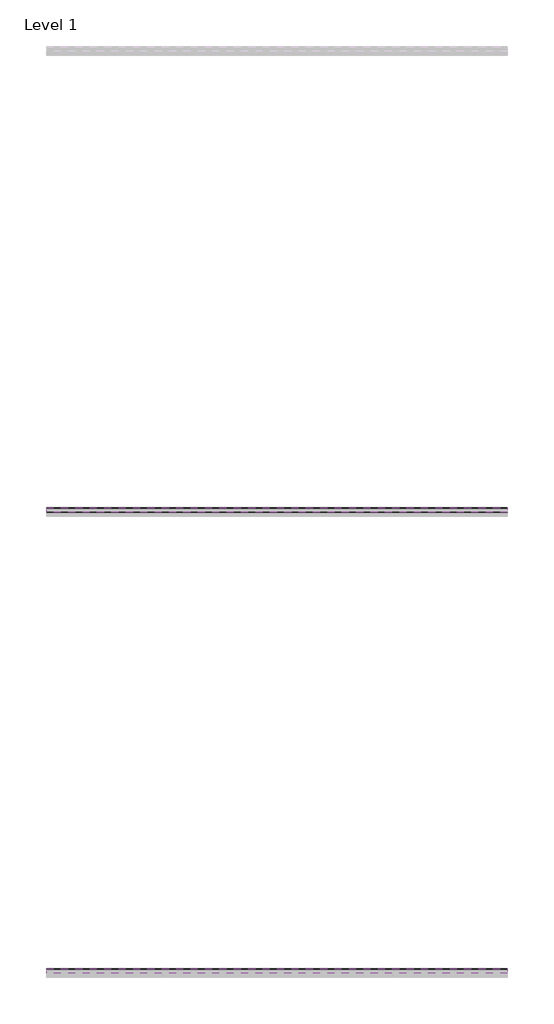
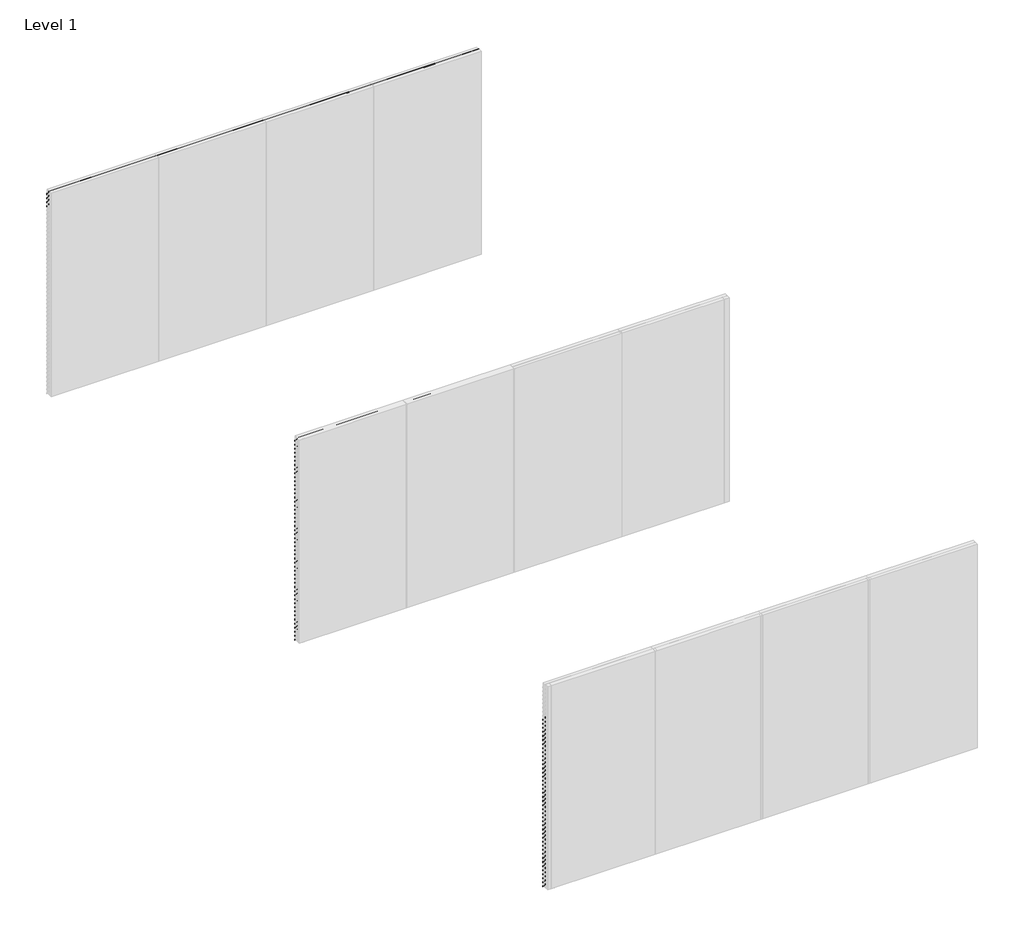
# One storey, part 2 of 3: 96 proxies.
"""IFC4 building model written with IfcOpenShell, lengths in millimetres."""

from ifc_helpers import new_model, si_unit, frame, origin, place, context, project, spatial, polyline, outline, extrude, element, save

model = new_model("IFC4")

# Units and contexts
model_context = context("Model", 3, world=origin())
ifc_project = project(units=[si_unit("LENGTHUNIT", "METRE", prefix="MILLI")], contexts=[model_context])

# Site, building, storey
site = spatial("IfcSite", under=ifc_project)
building = spatial("IfcBuilding", under=site)
storey = spatial("IfcBuildingStorey", under=building, Name="Level 1", Elevation=0.0)

# Proxies
placement = place(None, origin())
element("IfcBuildingElementProxy", 1, Name="Wall Sweeps", at=placement, inside=storey, context=model_context, shape_type="SweptSolid", body=[
    extrude(outline(polyline([(-7995.0, 3000.0), (-7995.0, 2998.0), (-7938.8, 2932.7), (-7938.8, 2916.7), (-7997.0, 2984.3238434), (-7997.0, 3000.0), (-7995.0, 3000.0)])), frame((0.0, 0.0, 0.0), z_axis=(1.0, 0.0, 0.0), x_axis=(0.0, 1.0, 0.0)), (0.0, 0.0, 1.0), 6000.0),
])
element("IfcBuildingElementProxy", 2, Name="Wall Sweeps", at=placement, inside=storey, context=model_context, shape_type="SweptSolid", body=[
    extrude(outline(polyline([(-7995.0, 2940.0), (-7995.0, 2938.0), (-7938.8, 2872.7), (-7938.8, 2856.7), (-7997.0, 2924.3238434), (-7997.0, 2940.0), (-7995.0, 2940.0)])), frame((0.0, 0.0, 0.0), z_axis=(1.0, 0.0, 0.0), x_axis=(0.0, 1.0, 0.0)), (0.0, 0.0, 1.0), 6000.0),
])
element("IfcBuildingElementProxy", 3, Name="Wall Sweeps", at=placement, inside=storey, context=model_context, shape_type="SweptSolid", body=[
    extrude(outline(polyline([(-7995.0, 2880.0), (-7995.0, 2878.0), (-7938.8, 2812.7), (-7938.8, 2796.7), (-7997.0, 2864.3238434), (-7997.0, 2880.0), (-7995.0, 2880.0)])), frame((0.0, 0.0, 0.0), z_axis=(1.0, 0.0, 0.0), x_axis=(0.0, 1.0, 0.0)), (0.0, 0.0, 1.0), 6000.0),
])
element("IfcBuildingElementProxy", 4, Name="Wall Sweeps", at=placement, inside=storey, context=model_context, shape_type="SweptSolid", body=[
    extrude(outline(polyline([(-7995.0, 2820.0), (-7995.0, 2818.0), (-7938.8, 2752.7), (-7938.8, 2736.7), (-7997.0, 2804.3238434), (-7997.0, 2820.0), (-7995.0, 2820.0)])), frame((0.0, 0.0, 0.0), z_axis=(1.0, 0.0, 0.0), x_axis=(0.0, 1.0, 0.0)), (0.0, 0.0, 1.0), 6000.0),
])
element("IfcBuildingElementProxy", 5, Name="Wall Sweeps", at=placement, inside=storey, context=model_context, shape_type="SweptSolid", body=[
    extrude(outline(polyline([(-13995.0, 3000.0), (-13995.0, 2998.0), (-13938.8, 2932.7), (-13938.8, 2916.7), (-13997.0, 2984.3238434), (-13997.0, 3000.0), (-13995.0, 3000.0)])), frame((0.0, 0.0, 0.0), z_axis=(1.0, 0.0, 0.0), x_axis=(0.0, 1.0, 0.0)), (0.0, 0.0, 1.0), 6000.0),
])
element("IfcBuildingElementProxy", 6, Name="Wall Sweeps", at=placement, inside=storey, context=model_context, shape_type="SweptSolid", body=[
    extrude(outline(polyline([(-13995.0, 2940.0), (-13995.0, 2938.0), (-13938.8, 2872.7), (-13938.8, 2856.7), (-13997.0, 2924.3238434), (-13997.0, 2940.0), (-13995.0, 2940.0)])), frame((0.0, 0.0, 0.0), z_axis=(1.0, 0.0, 0.0), x_axis=(0.0, 1.0, 0.0)), (0.0, 0.0, 1.0), 6000.0),
])
element("IfcBuildingElementProxy", 7, Name="Wall Sweeps", at=placement, inside=storey, context=model_context, shape_type="SweptSolid", body=[
    extrude(outline(polyline([(-13995.0, 2880.0), (-13995.0, 2878.0), (-13938.8, 2812.7), (-13938.8, 2796.7), (-13997.0, 2864.3238434), (-13997.0, 2880.0), (-13995.0, 2880.0)])), frame((0.0, 0.0, 0.0), z_axis=(1.0, 0.0, 0.0), x_axis=(0.0, 1.0, 0.0)), (0.0, 0.0, 1.0), 6000.0),
])
element("IfcBuildingElementProxy", 8, Name="Wall Sweeps", at=placement, inside=storey, context=model_context, shape_type="SweptSolid", body=[
    extrude(outline(polyline([(-13995.0, 2820.0), (-13995.0, 2818.0), (-13938.8, 2752.7), (-13938.8, 2736.7), (-13997.0, 2804.3238434), (-13997.0, 2820.0), (-13995.0, 2820.0)])), frame((0.0, 0.0, 0.0), z_axis=(1.0, 0.0, 0.0), x_axis=(0.0, 1.0, 0.0)), (0.0, 0.0, 1.0), 6000.0),
])
element("IfcBuildingElementProxy", 9, Name="Wall Sweeps", at=placement, inside=storey, context=model_context, shape_type="SweptSolid", body=[
    extrude(outline(polyline([(-13995.0, 2760.0), (-13995.0, 2758.0), (-13938.8, 2692.7), (-13938.8, 2676.7), (-13997.0, 2744.3238434), (-13997.0, 2760.0), (-13995.0, 2760.0)])), frame((0.0, 0.0, 0.0), z_axis=(1.0, 0.0, 0.0), x_axis=(0.0, 1.0, 0.0)), (0.0, 0.0, 1.0), 6000.0),
])
element("IfcBuildingElementProxy", 10, Name="Wall Sweeps", at=placement, inside=storey, context=model_context, shape_type="SweptSolid", body=[
    extrude(outline(polyline([(-13995.0, 2700.0), (-13995.0, 2698.0), (-13938.8, 2632.7), (-13938.8, 2616.7), (-13997.0, 2684.3238434), (-13997.0, 2700.0), (-13995.0, 2700.0)])), frame((0.0, 0.0, 0.0), z_axis=(1.0, 0.0, 0.0), x_axis=(0.0, 1.0, 0.0)), (0.0, 0.0, 1.0), 6000.0),
])
element("IfcBuildingElementProxy", 11, Name="Wall Sweeps", at=placement, inside=storey, context=model_context, shape_type="SweptSolid", body=[
    extrude(outline(polyline([(-13995.0, 2640.0), (-13995.0, 2638.0), (-13938.8, 2572.7), (-13938.8, 2556.7), (-13997.0, 2624.3238434), (-13997.0, 2640.0), (-13995.0, 2640.0)])), frame((0.0, 0.0, 0.0), z_axis=(1.0, 0.0, 0.0), x_axis=(0.0, 1.0, 0.0)), (0.0, 0.0, 1.0), 6000.0),
])
element("IfcBuildingElementProxy", 12, Name="Wall Sweeps", at=placement, inside=storey, context=model_context, shape_type="SweptSolid", body=[
    extrude(outline(polyline([(-13995.0, 2580.0), (-13995.0, 2578.0), (-13938.8, 2512.7), (-13938.8, 2496.7), (-13997.0, 2564.3238434), (-13997.0, 2580.0), (-13995.0, 2580.0)])), frame((0.0, 0.0, 0.0), z_axis=(1.0, 0.0, 0.0), x_axis=(0.0, 1.0, 0.0)), (0.0, 0.0, 1.0), 6000.0),
])
element("IfcBuildingElementProxy", 13, Name="Wall Sweeps", at=placement, inside=storey, context=model_context, shape_type="SweptSolid", body=[
    extrude(outline(polyline([(-13995.0, 2520.0), (-13995.0, 2518.0), (-13938.8, 2452.7), (-13938.8, 2436.7), (-13997.0, 2504.3238434), (-13997.0, 2520.0), (-13995.0, 2520.0)])), frame((0.0, 0.0, 0.0), z_axis=(1.0, 0.0, 0.0), x_axis=(0.0, 1.0, 0.0)), (0.0, 0.0, 1.0), 6000.0),
])
element("IfcBuildingElementProxy", 14, Name="Wall Sweeps", at=placement, inside=storey, context=model_context, shape_type="SweptSolid", body=[
    extrude(outline(polyline([(-13995.0, 2460.0), (-13995.0, 2458.0), (-13938.8, 2392.7), (-13938.8, 2376.7), (-13997.0, 2444.3238434), (-13997.0, 2460.0), (-13995.0, 2460.0)])), frame((0.0, 0.0, 0.0), z_axis=(1.0, 0.0, 0.0), x_axis=(0.0, 1.0, 0.0)), (0.0, 0.0, 1.0), 6000.0),
])
element("IfcBuildingElementProxy", 15, Name="Wall Sweeps", at=placement, inside=storey, context=model_context, shape_type="SweptSolid", body=[
    extrude(outline(polyline([(-13995.0, 2400.0), (-13995.0, 2398.0), (-13938.8, 2332.7), (-13938.8, 2316.7), (-13997.0, 2384.3238434), (-13997.0, 2400.0), (-13995.0, 2400.0)])), frame((0.0, 0.0, 0.0), z_axis=(1.0, 0.0, 0.0), x_axis=(0.0, 1.0, 0.0)), (0.0, 0.0, 1.0), 6000.0),
])
element("IfcBuildingElementProxy", 16, Name="Wall Sweeps", at=placement, inside=storey, context=model_context, shape_type="SweptSolid", body=[
    extrude(outline(polyline([(-13995.0, 2340.0), (-13995.0, 2338.0), (-13938.8, 2272.7), (-13938.8, 2256.7), (-13997.0, 2324.3238434), (-13997.0, 2340.0), (-13995.0, 2340.0)])), frame((0.0, 0.0, 0.0), z_axis=(1.0, 0.0, 0.0), x_axis=(0.0, 1.0, 0.0)), (0.0, 0.0, 1.0), 6000.0),
])
element("IfcBuildingElementProxy", 17, Name="Wall Sweeps", at=placement, inside=storey, context=model_context, shape_type="SweptSolid", body=[
    extrude(outline(polyline([(-13995.0, 2280.0), (-13995.0, 2278.0), (-13938.8, 2212.7), (-13938.8, 2196.7), (-13997.0, 2264.3238434), (-13997.0, 2280.0), (-13995.0, 2280.0)])), frame((0.0, 0.0, 0.0), z_axis=(1.0, 0.0, 0.0), x_axis=(0.0, 1.0, 0.0)), (0.0, 0.0, 1.0), 6000.0),
])
element("IfcBuildingElementProxy", 18, Name="Wall Sweeps", at=placement, inside=storey, context=model_context, shape_type="SweptSolid", body=[
    extrude(outline(polyline([(-13995.0, 2220.0), (-13995.0, 2218.0), (-13938.8, 2152.7), (-13938.8, 2136.7), (-13997.0, 2204.3238434), (-13997.0, 2220.0), (-13995.0, 2220.0)])), frame((0.0, 0.0, 0.0), z_axis=(1.0, 0.0, 0.0), x_axis=(0.0, 1.0, 0.0)), (0.0, 0.0, 1.0), 6000.0),
])
element("IfcBuildingElementProxy", 19, Name="Wall Sweeps", at=placement, inside=storey, context=model_context, shape_type="SweptSolid", body=[
    extrude(outline(polyline([(-13995.0, 2160.0), (-13995.0, 2158.0), (-13938.8, 2092.7), (-13938.8, 2076.7), (-13997.0, 2144.3238434), (-13997.0, 2160.0), (-13995.0, 2160.0)])), frame((0.0, 0.0, 0.0), z_axis=(1.0, 0.0, 0.0), x_axis=(0.0, 1.0, 0.0)), (0.0, 0.0, 1.0), 6000.0),
])
element("IfcBuildingElementProxy", 20, Name="Wall Sweeps", at=placement, inside=storey, context=model_context, shape_type="SweptSolid", body=[
    extrude(outline(polyline([(-13995.0, 2100.0), (-13995.0, 2098.0), (-13938.8, 2032.7), (-13938.8, 2016.7), (-13997.0, 2084.3238434), (-13997.0, 2100.0), (-13995.0, 2100.0)])), frame((0.0, 0.0, 0.0), z_axis=(1.0, 0.0, 0.0), x_axis=(0.0, 1.0, 0.0)), (0.0, 0.0, 1.0), 6000.0),
])
element("IfcBuildingElementProxy", 21, Name="Wall Sweeps", at=placement, inside=storey, context=model_context, shape_type="SweptSolid", body=[
    extrude(outline(polyline([(-13995.0, 2040.0), (-13995.0, 2038.0), (-13938.8, 1972.7), (-13938.8, 1956.7), (-13997.0, 2024.3238434), (-13997.0, 2040.0), (-13995.0, 2040.0)])), frame((0.0, 0.0, 0.0), z_axis=(1.0, 0.0, 0.0), x_axis=(0.0, 1.0, 0.0)), (0.0, 0.0, 1.0), 6000.0),
])
element("IfcBuildingElementProxy", 22, Name="Wall Sweeps", at=placement, inside=storey, context=model_context, shape_type="SweptSolid", body=[
    extrude(outline(polyline([(-13995.0, 1980.0), (-13995.0, 1978.0), (-13938.8, 1912.7), (-13938.8, 1896.7), (-13997.0, 1964.3238434), (-13997.0, 1980.0), (-13995.0, 1980.0)])), frame((0.0, 0.0, 0.0), z_axis=(1.0, 0.0, 0.0), x_axis=(0.0, 1.0, 0.0)), (0.0, 0.0, 1.0), 6000.0),
])
element("IfcBuildingElementProxy", 23, Name="Wall Sweeps", at=placement, inside=storey, context=model_context, shape_type="SweptSolid", body=[
    extrude(outline(polyline([(-13995.0, 1920.0), (-13995.0, 1918.0), (-13938.8, 1852.7), (-13938.8, 1836.7), (-13997.0, 1904.3238434), (-13997.0, 1920.0), (-13995.0, 1920.0)])), frame((0.0, 0.0, 0.0), z_axis=(1.0, 0.0, 0.0), x_axis=(0.0, 1.0, 0.0)), (0.0, 0.0, 1.0), 6000.0),
])
element("IfcBuildingElementProxy", 24, Name="Wall Sweeps", at=placement, inside=storey, context=model_context, shape_type="SweptSolid", body=[
    extrude(outline(polyline([(-13995.0, 1860.0), (-13995.0, 1858.0), (-13938.8, 1792.7), (-13938.8, 1776.7), (-13997.0, 1844.3238434), (-13997.0, 1860.0), (-13995.0, 1860.0)])), frame((0.0, 0.0, 0.0), z_axis=(1.0, 0.0, 0.0), x_axis=(0.0, 1.0, 0.0)), (0.0, 0.0, 1.0), 6000.0),
])
element("IfcBuildingElementProxy", 25, Name="Wall Sweeps", at=placement, inside=storey, context=model_context, shape_type="SweptSolid", body=[
    extrude(outline(polyline([(-13995.0, 1800.0), (-13995.0, 1798.0), (-13938.8, 1732.7), (-13938.8, 1716.7), (-13997.0, 1784.3238434), (-13997.0, 1800.0), (-13995.0, 1800.0)])), frame((0.0, 0.0, 0.0), z_axis=(1.0, 0.0, 0.0), x_axis=(0.0, 1.0, 0.0)), (0.0, 0.0, 1.0), 6000.0),
])
element("IfcBuildingElementProxy", 26, Name="Wall Sweeps", at=placement, inside=storey, context=model_context, shape_type="SweptSolid", body=[
    extrude(outline(polyline([(-13995.0, 1740.0), (-13995.0, 1738.0), (-13938.8, 1672.7), (-13938.8, 1656.7), (-13997.0, 1724.3238434), (-13997.0, 1740.0), (-13995.0, 1740.0)])), frame((0.0, 0.0, 0.0), z_axis=(1.0, 0.0, 0.0), x_axis=(0.0, 1.0, 0.0)), (0.0, 0.0, 1.0), 6000.0),
])
element("IfcBuildingElementProxy", 27, Name="Wall Sweeps", at=placement, inside=storey, context=model_context, shape_type="SweptSolid", body=[
    extrude(outline(polyline([(-13995.0, 1680.0), (-13995.0, 1678.0), (-13938.8, 1612.7), (-13938.8, 1596.7), (-13997.0, 1664.3238434), (-13997.0, 1680.0), (-13995.0, 1680.0)])), frame((0.0, 0.0, 0.0), z_axis=(1.0, 0.0, 0.0), x_axis=(0.0, 1.0, 0.0)), (0.0, 0.0, 1.0), 6000.0),
])
element("IfcBuildingElementProxy", 28, Name="Wall Sweeps", at=placement, inside=storey, context=model_context, shape_type="SweptSolid", body=[
    extrude(outline(polyline([(-13995.0, 1620.0), (-13995.0, 1618.0), (-13938.8, 1552.7), (-13938.8, 1536.7), (-13997.0, 1604.3238434), (-13997.0, 1620.0), (-13995.0, 1620.0)])), frame((0.0, 0.0, 0.0), z_axis=(1.0, 0.0, 0.0), x_axis=(0.0, 1.0, 0.0)), (0.0, 0.0, 1.0), 6000.0),
])
element("IfcBuildingElementProxy", 29, Name="Wall Sweeps", at=placement, inside=storey, context=model_context, shape_type="SweptSolid", body=[
    extrude(outline(polyline([(-13995.0, 1560.0), (-13995.0, 1558.0), (-13938.8, 1492.7), (-13938.8, 1476.7), (-13997.0, 1544.3238434), (-13997.0, 1560.0), (-13995.0, 1560.0)])), frame((0.0, 0.0, 0.0), z_axis=(1.0, 0.0, 0.0), x_axis=(0.0, 1.0, 0.0)), (0.0, 0.0, 1.0), 6000.0),
])
element("IfcBuildingElementProxy", 30, Name="Wall Sweeps", at=placement, inside=storey, context=model_context, shape_type="SweptSolid", body=[
    extrude(outline(polyline([(-13995.0, 1500.0), (-13995.0, 1498.0), (-13938.8, 1432.7), (-13938.8, 1416.7), (-13997.0, 1484.3238434), (-13997.0, 1500.0), (-13995.0, 1500.0)])), frame((0.0, 0.0, 0.0), z_axis=(1.0, 0.0, 0.0), x_axis=(0.0, 1.0, 0.0)), (0.0, 0.0, 1.0), 6000.0),
])
element("IfcBuildingElementProxy", 31, Name="Wall Sweeps", at=placement, inside=storey, context=model_context, shape_type="SweptSolid", body=[
    extrude(outline(polyline([(-13995.0, 1440.0), (-13995.0, 1438.0), (-13938.8, 1372.7), (-13938.8, 1356.7), (-13997.0, 1424.3238434), (-13997.0, 1440.0), (-13995.0, 1440.0)])), frame((0.0, 0.0, 0.0), z_axis=(1.0, 0.0, 0.0), x_axis=(0.0, 1.0, 0.0)), (0.0, 0.0, 1.0), 6000.0),
])
element("IfcBuildingElementProxy", 32, Name="Wall Sweeps", at=placement, inside=storey, context=model_context, shape_type="SweptSolid", body=[
    extrude(outline(polyline([(-13995.0, 1380.0), (-13995.0, 1378.0), (-13938.8, 1312.7), (-13938.8, 1296.7), (-13997.0, 1364.3238434), (-13997.0, 1380.0), (-13995.0, 1380.0)])), frame((0.0, 0.0, 0.0), z_axis=(1.0, 0.0, 0.0), x_axis=(0.0, 1.0, 0.0)), (0.0, 0.0, 1.0), 6000.0),
])
element("IfcBuildingElementProxy", 33, Name="Wall Sweeps", at=placement, inside=storey, context=model_context, shape_type="SweptSolid", body=[
    extrude(outline(polyline([(-13995.0, 1320.0), (-13995.0, 1318.0), (-13938.8, 1252.7), (-13938.8, 1236.7), (-13997.0, 1304.3238434), (-13997.0, 1320.0), (-13995.0, 1320.0)])), frame((0.0, 0.0, 0.0), z_axis=(1.0, 0.0, 0.0), x_axis=(0.0, 1.0, 0.0)), (0.0, 0.0, 1.0), 6000.0),
])
element("IfcBuildingElementProxy", 34, Name="Wall Sweeps", at=placement, inside=storey, context=model_context, shape_type="SweptSolid", body=[
    extrude(outline(polyline([(-13995.0, 1260.0), (-13995.0, 1258.0), (-13938.8, 1192.7), (-13938.8, 1176.7), (-13997.0, 1244.3238434), (-13997.0, 1260.0), (-13995.0, 1260.0)])), frame((0.0, 0.0, 0.0), z_axis=(1.0, 0.0, 0.0), x_axis=(0.0, 1.0, 0.0)), (0.0, 0.0, 1.0), 6000.0),
])
element("IfcBuildingElementProxy", 35, Name="Wall Sweeps", at=placement, inside=storey, context=model_context, shape_type="SweptSolid", body=[
    extrude(outline(polyline([(-13995.0, 1200.0), (-13995.0, 1198.0), (-13938.8, 1132.7), (-13938.8, 1116.7), (-13997.0, 1184.3238434), (-13997.0, 1200.0), (-13995.0, 1200.0)])), frame((0.0, 0.0, 0.0), z_axis=(1.0, 0.0, 0.0), x_axis=(0.0, 1.0, 0.0)), (0.0, 0.0, 1.0), 6000.0),
])
element("IfcBuildingElementProxy", 36, Name="Wall Sweeps", at=placement, inside=storey, context=model_context, shape_type="SweptSolid", body=[
    extrude(outline(polyline([(-13995.0, 1140.0), (-13995.0, 1138.0), (-13938.8, 1072.7), (-13938.8, 1056.7), (-13997.0, 1124.3238434), (-13997.0, 1140.0), (-13995.0, 1140.0)])), frame((0.0, 0.0, 0.0), z_axis=(1.0, 0.0, 0.0), x_axis=(0.0, 1.0, 0.0)), (0.0, 0.0, 1.0), 6000.0),
])
element("IfcBuildingElementProxy", 37, Name="Wall Sweeps", at=placement, inside=storey, context=model_context, shape_type="SweptSolid", body=[
    extrude(outline(polyline([(-13995.0, 1080.0), (-13995.0, 1078.0), (-13938.8, 1012.7), (-13938.8, 996.7), (-13997.0, 1064.3238434), (-13997.0, 1080.0), (-13995.0, 1080.0)])), frame((0.0, 0.0, 0.0), z_axis=(1.0, 0.0, 0.0), x_axis=(0.0, 1.0, 0.0)), (0.0, 0.0, 1.0), 6000.0),
])
element("IfcBuildingElementProxy", 38, Name="Wall Sweeps", at=placement, inside=storey, context=model_context, shape_type="SweptSolid", body=[
    extrude(outline(polyline([(-13995.0, 1020.0), (-13995.0, 1018.0), (-13938.8, 952.7), (-13938.8, 936.7), (-13997.0, 1004.3238434), (-13997.0, 1020.0), (-13995.0, 1020.0)])), frame((0.0, 0.0, 0.0), z_axis=(1.0, 0.0, 0.0), x_axis=(0.0, 1.0, 0.0)), (0.0, 0.0, 1.0), 6000.0),
])
element("IfcBuildingElementProxy", 39, Name="Wall Sweeps", at=placement, inside=storey, context=model_context, shape_type="SweptSolid", body=[
    extrude(outline(polyline([(-13995.0, 960.0), (-13995.0, 958.0), (-13938.8, 892.7), (-13938.8, 876.7), (-13997.0, 944.3238434), (-13997.0, 960.0), (-13995.0, 960.0)])), frame((0.0, 0.0, 0.0), z_axis=(1.0, 0.0, 0.0), x_axis=(0.0, 1.0, 0.0)), (0.0, 0.0, 1.0), 6000.0),
])
element("IfcBuildingElementProxy", 40, Name="Wall Sweeps", at=placement, inside=storey, context=model_context, shape_type="SweptSolid", body=[
    extrude(outline(polyline([(-13995.0, 900.0), (-13995.0, 898.0), (-13938.8, 832.7), (-13938.8, 816.7), (-13997.0, 884.3238434), (-13997.0, 900.0), (-13995.0, 900.0)])), frame((0.0, 0.0, 0.0), z_axis=(1.0, 0.0, 0.0), x_axis=(0.0, 1.0, 0.0)), (0.0, 0.0, 1.0), 6000.0),
])
element("IfcBuildingElementProxy", 41, Name="Wall Sweeps", at=placement, inside=storey, context=model_context, shape_type="SweptSolid", body=[
    extrude(outline(polyline([(-13995.0, 840.0), (-13995.0, 838.0), (-13938.8, 772.7), (-13938.8, 756.7), (-13997.0, 824.3238434), (-13997.0, 840.0), (-13995.0, 840.0)])), frame((0.0, 0.0, 0.0), z_axis=(1.0, 0.0, 0.0), x_axis=(0.0, 1.0, 0.0)), (0.0, 0.0, 1.0), 6000.0),
])
element("IfcBuildingElementProxy", 42, Name="Wall Sweeps", at=placement, inside=storey, context=model_context, shape_type="SweptSolid", body=[
    extrude(outline(polyline([(-13995.0, 780.0), (-13995.0, 778.0), (-13938.8, 712.7), (-13938.8, 696.7), (-13997.0, 764.3238434), (-13997.0, 780.0), (-13995.0, 780.0)])), frame((0.0, 0.0, 0.0), z_axis=(1.0, 0.0, 0.0), x_axis=(0.0, 1.0, 0.0)), (0.0, 0.0, 1.0), 6000.0),
])
element("IfcBuildingElementProxy", 43, Name="Wall Sweeps", at=placement, inside=storey, context=model_context, shape_type="SweptSolid", body=[
    extrude(outline(polyline([(-13995.0, 720.0), (-13995.0, 718.0), (-13938.8, 652.7), (-13938.8, 636.7), (-13997.0, 704.3238434), (-13997.0, 720.0), (-13995.0, 720.0)])), frame((0.0, 0.0, 0.0), z_axis=(1.0, 0.0, 0.0), x_axis=(0.0, 1.0, 0.0)), (0.0, 0.0, 1.0), 6000.0),
])
element("IfcBuildingElementProxy", 44, Name="Wall Sweeps", at=placement, inside=storey, context=model_context, shape_type="SweptSolid", body=[
    extrude(outline(polyline([(-13995.0, 660.0), (-13995.0, 658.0), (-13938.8, 592.7), (-13938.8, 576.7), (-13997.0, 644.3238434), (-13997.0, 660.0), (-13995.0, 660.0)])), frame((0.0, 0.0, 0.0), z_axis=(1.0, 0.0, 0.0), x_axis=(0.0, 1.0, 0.0)), (0.0, 0.0, 1.0), 6000.0),
])
element("IfcBuildingElementProxy", 45, Name="Wall Sweeps", at=placement, inside=storey, context=model_context, shape_type="SweptSolid", body=[
    extrude(outline(polyline([(-13995.0, 600.0), (-13995.0, 598.0), (-13938.8, 532.7), (-13938.8, 516.7), (-13997.0, 584.3238434), (-13997.0, 600.0), (-13995.0, 600.0)])), frame((0.0, 0.0, 0.0), z_axis=(1.0, 0.0, 0.0), x_axis=(0.0, 1.0, 0.0)), (0.0, 0.0, 1.0), 6000.0),
])
element("IfcBuildingElementProxy", 46, Name="Wall Sweeps", at=placement, inside=storey, context=model_context, shape_type="SweptSolid", body=[
    extrude(outline(polyline([(-13995.0, 540.0), (-13995.0, 538.0), (-13938.8, 472.7), (-13938.8, 456.7), (-13997.0, 524.3238434), (-13997.0, 540.0), (-13995.0, 540.0)])), frame((0.0, 0.0, 0.0), z_axis=(1.0, 0.0, 0.0), x_axis=(0.0, 1.0, 0.0)), (0.0, 0.0, 1.0), 6000.0),
])
element("IfcBuildingElementProxy", 47, Name="Wall Sweeps", at=placement, inside=storey, context=model_context, shape_type="SweptSolid", body=[
    extrude(outline(polyline([(-13995.0, 480.0), (-13995.0, 478.0), (-13938.8, 412.7), (-13938.8, 396.7), (-13997.0, 464.3238434), (-13997.0, 480.0), (-13995.0, 480.0)])), frame((0.0, 0.0, 0.0), z_axis=(1.0, 0.0, 0.0), x_axis=(0.0, 1.0, 0.0)), (0.0, 0.0, 1.0), 6000.0),
])
element("IfcBuildingElementProxy", 48, Name="Wall Sweeps", at=placement, inside=storey, context=model_context, shape_type="SweptSolid", body=[
    extrude(outline(polyline([(-13995.0, 420.0), (-13995.0, 418.0), (-13938.8, 352.7), (-13938.8, 336.7), (-13997.0, 404.3238434), (-13997.0, 420.0), (-13995.0, 420.0)])), frame((0.0, 0.0, 0.0), z_axis=(1.0, 0.0, 0.0), x_axis=(0.0, 1.0, 0.0)), (0.0, 0.0, 1.0), 6000.0),
])
element("IfcBuildingElementProxy", 49, Name="Wall Sweeps", at=placement, inside=storey, context=model_context, shape_type="SweptSolid", body=[
    extrude(outline(polyline([(-13995.0, 360.0), (-13995.0, 358.0), (-13938.8, 292.7), (-13938.8, 276.7), (-13997.0, 344.3238434), (-13997.0, 360.0), (-13995.0, 360.0)])), frame((0.0, 0.0, 0.0), z_axis=(1.0, 0.0, 0.0), x_axis=(0.0, 1.0, 0.0)), (0.0, 0.0, 1.0), 6000.0),
])
element("IfcBuildingElementProxy", 50, Name="Wall Sweeps", at=placement, inside=storey, context=model_context, shape_type="SweptSolid", body=[
    extrude(outline(polyline([(-13995.0, 300.0), (-13995.0, 298.0), (-13938.8, 232.7), (-13938.8, 216.7), (-13997.0, 284.3238434), (-13997.0, 300.0), (-13995.0, 300.0)])), frame((0.0, 0.0, 0.0), z_axis=(1.0, 0.0, 0.0), x_axis=(0.0, 1.0, 0.0)), (0.0, 0.0, 1.0), 6000.0),
])
element("IfcBuildingElementProxy", 51, Name="Wall Sweeps", at=placement, inside=storey, context=model_context, shape_type="SweptSolid", body=[
    extrude(outline(polyline([(-13995.0, 240.0), (-13995.0, 238.0), (-13938.8, 172.7), (-13938.8, 156.7), (-13997.0, 224.3238434), (-13997.0, 240.0), (-13995.0, 240.0)])), frame((0.0, 0.0, 0.0), z_axis=(1.0, 0.0, 0.0), x_axis=(0.0, 1.0, 0.0)), (0.0, 0.0, 1.0), 6000.0),
])
element("IfcBuildingElementProxy", 52, Name="Wall Sweeps", at=placement, inside=storey, context=model_context, shape_type="SweptSolid", body=[
    extrude(outline(polyline([(-13995.0, 180.0), (-13995.0, 178.0), (-13938.8, 112.7), (-13938.8, 96.7), (-13997.0, 164.3238434), (-13997.0, 180.0), (-13995.0, 180.0)])), frame((0.0, 0.0, 0.0), z_axis=(1.0, 0.0, 0.0), x_axis=(0.0, 1.0, 0.0)), (0.0, 0.0, 1.0), 6000.0),
])
element("IfcBuildingElementProxy", 53, Name="Wall Sweeps", at=placement, inside=storey, context=model_context, shape_type="SweptSolid", body=[
    extrude(outline(polyline([(-13995.0, 120.0), (-13995.0, 118.0), (-13938.8, 52.7), (-13938.8, 36.7), (-13997.0, 104.3238434), (-13997.0, 120.0), (-13995.0, 120.0)])), frame((0.0, 0.0, 0.0), z_axis=(1.0, 0.0, 0.0), x_axis=(0.0, 1.0, 0.0)), (0.0, 0.0, 1.0), 6000.0),
])
element("IfcBuildingElementProxy", 54, Name="Wall Sweeps", at=placement, inside=storey, context=model_context, shape_type="SweptSolid", body=[
    extrude(outline(polyline([(-13995.0, 60.0), (-13995.0, 58.0), (-13938.8, -7.3), (-13938.8, -23.3), (-13997.0, 44.3238434), (-13997.0, 60.0), (-13995.0, 60.0)])), frame((0.0, 0.0, 0.0), z_axis=(1.0, 0.0, 0.0), x_axis=(0.0, 1.0, 0.0)), (0.0, 0.0, 1.0), 6000.0),
])
element("IfcBuildingElementProxy", 55, Name="Wall Sweeps", at=placement, inside=storey, context=model_context, shape_type="SweptSolid", body=[
    extrude(outline(polyline([(-19995.0, 2520.0), (-19995.0, 2518.0), (-19938.8, 2452.7), (-19938.8, 2436.7), (-19997.0, 2504.3238434), (-19997.0, 2520.0), (-19995.0, 2520.0)])), frame((0.0, 0.0, 0.0), z_axis=(1.0, 0.0, 0.0), x_axis=(0.0, 1.0, 0.0)), (0.0, 0.0, 1.0), 6000.0),
])
element("IfcBuildingElementProxy", 56, Name="Wall Sweeps", at=placement, inside=storey, context=model_context, shape_type="SweptSolid", body=[
    extrude(outline(polyline([(-19995.0, 2460.0), (-19995.0, 2458.0), (-19938.8, 2392.7), (-19938.8, 2376.7), (-19997.0, 2444.3238434), (-19997.0, 2460.0), (-19995.0, 2460.0)])), frame((0.0, 0.0, 0.0), z_axis=(1.0, 0.0, 0.0), x_axis=(0.0, 1.0, 0.0)), (0.0, 0.0, 1.0), 6000.0),
])
element("IfcBuildingElementProxy", 57, Name="Wall Sweeps", at=placement, inside=storey, context=model_context, shape_type="SweptSolid", body=[
    extrude(outline(polyline([(-19995.0, 2400.0), (-19995.0, 2398.0), (-19938.8, 2332.7), (-19938.8, 2316.7), (-19997.0, 2384.3238434), (-19997.0, 2400.0), (-19995.0, 2400.0)])), frame((0.0, 0.0, 0.0), z_axis=(1.0, 0.0, 0.0), x_axis=(0.0, 1.0, 0.0)), (0.0, 0.0, 1.0), 6000.0),
])
element("IfcBuildingElementProxy", 58, Name="Wall Sweeps", at=placement, inside=storey, context=model_context, shape_type="SweptSolid", body=[
    extrude(outline(polyline([(-19995.0, 2340.0), (-19995.0, 2338.0), (-19938.8, 2272.7), (-19938.8, 2256.7), (-19997.0, 2324.3238434), (-19997.0, 2340.0), (-19995.0, 2340.0)])), frame((0.0, 0.0, 0.0), z_axis=(1.0, 0.0, 0.0), x_axis=(0.0, 1.0, 0.0)), (0.0, 0.0, 1.0), 6000.0),
])
element("IfcBuildingElementProxy", 59, Name="Wall Sweeps", at=placement, inside=storey, context=model_context, shape_type="SweptSolid", body=[
    extrude(outline(polyline([(-19995.0, 2280.0), (-19995.0, 2278.0), (-19938.8, 2212.7), (-19938.8, 2196.7), (-19997.0, 2264.3238434), (-19997.0, 2280.0), (-19995.0, 2280.0)])), frame((0.0, 0.0, 0.0), z_axis=(1.0, 0.0, 0.0), x_axis=(0.0, 1.0, 0.0)), (0.0, 0.0, 1.0), 6000.0),
])
element("IfcBuildingElementProxy", 60, Name="Wall Sweeps", at=placement, inside=storey, context=model_context, shape_type="SweptSolid", body=[
    extrude(outline(polyline([(-19995.0, 2220.0), (-19995.0, 2218.0), (-19938.8, 2152.7), (-19938.8, 2136.7), (-19997.0, 2204.3238434), (-19997.0, 2220.0), (-19995.0, 2220.0)])), frame((0.0, 0.0, 0.0), z_axis=(1.0, 0.0, 0.0), x_axis=(0.0, 1.0, 0.0)), (0.0, 0.0, 1.0), 6000.0),
])
element("IfcBuildingElementProxy", 61, Name="Wall Sweeps", at=placement, inside=storey, context=model_context, shape_type="SweptSolid", body=[
    extrude(outline(polyline([(-19995.0, 2160.0), (-19995.0, 2158.0), (-19938.8, 2092.7), (-19938.8, 2076.7), (-19997.0, 2144.3238434), (-19997.0, 2160.0), (-19995.0, 2160.0)])), frame((0.0, 0.0, 0.0), z_axis=(1.0, 0.0, 0.0), x_axis=(0.0, 1.0, 0.0)), (0.0, 0.0, 1.0), 6000.0),
])
element("IfcBuildingElementProxy", 62, Name="Wall Sweeps", at=placement, inside=storey, context=model_context, shape_type="SweptSolid", body=[
    extrude(outline(polyline([(-19995.0, 2100.0), (-19995.0, 2098.0), (-19938.8, 2032.7), (-19938.8, 2016.7), (-19997.0, 2084.3238434), (-19997.0, 2100.0), (-19995.0, 2100.0)])), frame((0.0, 0.0, 0.0), z_axis=(1.0, 0.0, 0.0), x_axis=(0.0, 1.0, 0.0)), (0.0, 0.0, 1.0), 6000.0),
])
element("IfcBuildingElementProxy", 63, Name="Wall Sweeps", at=placement, inside=storey, context=model_context, shape_type="SweptSolid", body=[
    extrude(outline(polyline([(-19995.0, 2040.0), (-19995.0, 2038.0), (-19938.8, 1972.7), (-19938.8, 1956.7), (-19997.0, 2024.3238434), (-19997.0, 2040.0), (-19995.0, 2040.0)])), frame((0.0, 0.0, 0.0), z_axis=(1.0, 0.0, 0.0), x_axis=(0.0, 1.0, 0.0)), (0.0, 0.0, 1.0), 6000.0),
])
element("IfcBuildingElementProxy", 64, Name="Wall Sweeps", at=placement, inside=storey, context=model_context, shape_type="SweptSolid", body=[
    extrude(outline(polyline([(-19995.0, 1980.0), (-19995.0, 1978.0), (-19938.8, 1912.7), (-19938.8, 1896.7), (-19997.0, 1964.3238434), (-19997.0, 1980.0), (-19995.0, 1980.0)])), frame((0.0, 0.0, 0.0), z_axis=(1.0, 0.0, 0.0), x_axis=(0.0, 1.0, 0.0)), (0.0, 0.0, 1.0), 6000.0),
])
element("IfcBuildingElementProxy", 65, Name="Wall Sweeps", at=placement, inside=storey, context=model_context, shape_type="SweptSolid", body=[
    extrude(outline(polyline([(-19995.0, 1920.0), (-19995.0, 1918.0), (-19938.8, 1852.7), (-19938.8, 1836.7), (-19997.0, 1904.3238434), (-19997.0, 1920.0), (-19995.0, 1920.0)])), frame((0.0, 0.0, 0.0), z_axis=(1.0, 0.0, 0.0), x_axis=(0.0, 1.0, 0.0)), (0.0, 0.0, 1.0), 6000.0),
])
element("IfcBuildingElementProxy", 66, Name="Wall Sweeps", at=placement, inside=storey, context=model_context, shape_type="SweptSolid", body=[
    extrude(outline(polyline([(-19995.0, 1860.0), (-19995.0, 1858.0), (-19938.8, 1792.7), (-19938.8, 1776.7), (-19997.0, 1844.3238434), (-19997.0, 1860.0), (-19995.0, 1860.0)])), frame((0.0, 0.0, 0.0), z_axis=(1.0, 0.0, 0.0), x_axis=(0.0, 1.0, 0.0)), (0.0, 0.0, 1.0), 6000.0),
])
element("IfcBuildingElementProxy", 67, Name="Wall Sweeps", at=placement, inside=storey, context=model_context, shape_type="SweptSolid", body=[
    extrude(outline(polyline([(-19995.0, 1800.0), (-19995.0, 1798.0), (-19938.8, 1732.7), (-19938.8, 1716.7), (-19997.0, 1784.3238434), (-19997.0, 1800.0), (-19995.0, 1800.0)])), frame((0.0, 0.0, 0.0), z_axis=(1.0, 0.0, 0.0), x_axis=(0.0, 1.0, 0.0)), (0.0, 0.0, 1.0), 6000.0),
])
element("IfcBuildingElementProxy", 68, Name="Wall Sweeps", at=placement, inside=storey, context=model_context, shape_type="SweptSolid", body=[
    extrude(outline(polyline([(-19995.0, 1740.0), (-19995.0, 1738.0), (-19938.8, 1672.7), (-19938.8, 1656.7), (-19997.0, 1724.3238434), (-19997.0, 1740.0), (-19995.0, 1740.0)])), frame((0.0, 0.0, 0.0), z_axis=(1.0, 0.0, 0.0), x_axis=(0.0, 1.0, 0.0)), (0.0, 0.0, 1.0), 6000.0),
])
element("IfcBuildingElementProxy", 69, Name="Wall Sweeps", at=placement, inside=storey, context=model_context, shape_type="SweptSolid", body=[
    extrude(outline(polyline([(-19995.0, 1680.0), (-19995.0, 1678.0), (-19938.8, 1612.7), (-19938.8, 1596.7), (-19997.0, 1664.3238434), (-19997.0, 1680.0), (-19995.0, 1680.0)])), frame((0.0, 0.0, 0.0), z_axis=(1.0, 0.0, 0.0), x_axis=(0.0, 1.0, 0.0)), (0.0, 0.0, 1.0), 6000.0),
])
element("IfcBuildingElementProxy", 70, Name="Wall Sweeps", at=placement, inside=storey, context=model_context, shape_type="SweptSolid", body=[
    extrude(outline(polyline([(-19995.0, 1620.0), (-19995.0, 1618.0), (-19938.8, 1552.7), (-19938.8, 1536.7), (-19997.0, 1604.3238434), (-19997.0, 1620.0), (-19995.0, 1620.0)])), frame((0.0, 0.0, 0.0), z_axis=(1.0, 0.0, 0.0), x_axis=(0.0, 1.0, 0.0)), (0.0, 0.0, 1.0), 6000.0),
])
element("IfcBuildingElementProxy", 71, Name="Wall Sweeps", at=placement, inside=storey, context=model_context, shape_type="SweptSolid", body=[
    extrude(outline(polyline([(-19995.0, 1560.0), (-19995.0, 1558.0), (-19938.8, 1492.7), (-19938.8, 1476.7), (-19997.0, 1544.3238434), (-19997.0, 1560.0), (-19995.0, 1560.0)])), frame((0.0, 0.0, 0.0), z_axis=(1.0, 0.0, 0.0), x_axis=(0.0, 1.0, 0.0)), (0.0, 0.0, 1.0), 6000.0),
])
element("IfcBuildingElementProxy", 72, Name="Wall Sweeps", at=placement, inside=storey, context=model_context, shape_type="SweptSolid", body=[
    extrude(outline(polyline([(-19995.0, 1500.0), (-19995.0, 1498.0), (-19938.8, 1432.7), (-19938.8, 1416.7), (-19997.0, 1484.3238434), (-19997.0, 1500.0), (-19995.0, 1500.0)])), frame((0.0, 0.0, 0.0), z_axis=(1.0, 0.0, 0.0), x_axis=(0.0, 1.0, 0.0)), (0.0, 0.0, 1.0), 6000.0),
])
element("IfcBuildingElementProxy", 73, Name="Wall Sweeps", at=placement, inside=storey, context=model_context, shape_type="SweptSolid", body=[
    extrude(outline(polyline([(-19995.0, 1440.0), (-19995.0, 1438.0), (-19938.8, 1372.7), (-19938.8, 1356.7), (-19997.0, 1424.3238434), (-19997.0, 1440.0), (-19995.0, 1440.0)])), frame((0.0, 0.0, 0.0), z_axis=(1.0, 0.0, 0.0), x_axis=(0.0, 1.0, 0.0)), (0.0, 0.0, 1.0), 6000.0),
])
element("IfcBuildingElementProxy", 74, Name="Wall Sweeps", at=placement, inside=storey, context=model_context, shape_type="SweptSolid", body=[
    extrude(outline(polyline([(-19995.0, 1380.0), (-19995.0, 1378.0), (-19938.8, 1312.7), (-19938.8, 1296.7), (-19997.0, 1364.3238434), (-19997.0, 1380.0), (-19995.0, 1380.0)])), frame((0.0, 0.0, 0.0), z_axis=(1.0, 0.0, 0.0), x_axis=(0.0, 1.0, 0.0)), (0.0, 0.0, 1.0), 6000.0),
])
element("IfcBuildingElementProxy", 75, Name="Wall Sweeps", at=placement, inside=storey, context=model_context, shape_type="SweptSolid", body=[
    extrude(outline(polyline([(-19995.0, 1320.0), (-19995.0, 1318.0), (-19938.8, 1252.7), (-19938.8, 1236.7), (-19997.0, 1304.3238434), (-19997.0, 1320.0), (-19995.0, 1320.0)])), frame((0.0, 0.0, 0.0), z_axis=(1.0, 0.0, 0.0), x_axis=(0.0, 1.0, 0.0)), (0.0, 0.0, 1.0), 6000.0),
])
element("IfcBuildingElementProxy", 76, Name="Wall Sweeps", at=placement, inside=storey, context=model_context, shape_type="SweptSolid", body=[
    extrude(outline(polyline([(-19995.0, 1260.0), (-19995.0, 1258.0), (-19938.8, 1192.7), (-19938.8, 1176.7), (-19997.0, 1244.3238434), (-19997.0, 1260.0), (-19995.0, 1260.0)])), frame((0.0, 0.0, 0.0), z_axis=(1.0, 0.0, 0.0), x_axis=(0.0, 1.0, 0.0)), (0.0, 0.0, 1.0), 6000.0),
])
element("IfcBuildingElementProxy", 77, Name="Wall Sweeps", at=placement, inside=storey, context=model_context, shape_type="SweptSolid", body=[
    extrude(outline(polyline([(-19995.0, 1200.0), (-19995.0, 1198.0), (-19938.8, 1132.7), (-19938.8, 1116.7), (-19997.0, 1184.3238434), (-19997.0, 1200.0), (-19995.0, 1200.0)])), frame((0.0, 0.0, 0.0), z_axis=(1.0, 0.0, 0.0), x_axis=(0.0, 1.0, 0.0)), (0.0, 0.0, 1.0), 6000.0),
])
element("IfcBuildingElementProxy", 78, Name="Wall Sweeps", at=placement, inside=storey, context=model_context, shape_type="SweptSolid", body=[
    extrude(outline(polyline([(-19995.0, 1140.0), (-19995.0, 1138.0), (-19938.8, 1072.7), (-19938.8, 1056.7), (-19997.0, 1124.3238434), (-19997.0, 1140.0), (-19995.0, 1140.0)])), frame((0.0, 0.0, 0.0), z_axis=(1.0, 0.0, 0.0), x_axis=(0.0, 1.0, 0.0)), (0.0, 0.0, 1.0), 6000.0),
])
element("IfcBuildingElementProxy", 79, Name="Wall Sweeps", at=placement, inside=storey, context=model_context, shape_type="SweptSolid", body=[
    extrude(outline(polyline([(-19995.0, 1080.0), (-19995.0, 1078.0), (-19938.8, 1012.7), (-19938.8, 996.7), (-19997.0, 1064.3238434), (-19997.0, 1080.0), (-19995.0, 1080.0)])), frame((0.0, 0.0, 0.0), z_axis=(1.0, 0.0, 0.0), x_axis=(0.0, 1.0, 0.0)), (0.0, 0.0, 1.0), 6000.0),
])
element("IfcBuildingElementProxy", 80, Name="Wall Sweeps", at=placement, inside=storey, context=model_context, shape_type="SweptSolid", body=[
    extrude(outline(polyline([(-19995.0, 1020.0), (-19995.0, 1018.0), (-19938.8, 952.7), (-19938.8, 936.7), (-19997.0, 1004.3238434), (-19997.0, 1020.0), (-19995.0, 1020.0)])), frame((0.0, 0.0, 0.0), z_axis=(1.0, 0.0, 0.0), x_axis=(0.0, 1.0, 0.0)), (0.0, 0.0, 1.0), 6000.0),
])
element("IfcBuildingElementProxy", 81, Name="Wall Sweeps", at=placement, inside=storey, context=model_context, shape_type="SweptSolid", body=[
    extrude(outline(polyline([(-19995.0, 960.0), (-19995.0, 958.0), (-19938.8, 892.7), (-19938.8, 876.7), (-19997.0, 944.3238434), (-19997.0, 960.0), (-19995.0, 960.0)])), frame((0.0, 0.0, 0.0), z_axis=(1.0, 0.0, 0.0), x_axis=(0.0, 1.0, 0.0)), (0.0, 0.0, 1.0), 6000.0),
])
element("IfcBuildingElementProxy", 82, Name="Wall Sweeps", at=placement, inside=storey, context=model_context, shape_type="SweptSolid", body=[
    extrude(outline(polyline([(-19995.0, 900.0), (-19995.0, 898.0), (-19938.8, 832.7), (-19938.8, 816.7), (-19997.0, 884.3238434), (-19997.0, 900.0), (-19995.0, 900.0)])), frame((0.0, 0.0, 0.0), z_axis=(1.0, 0.0, 0.0), x_axis=(0.0, 1.0, 0.0)), (0.0, 0.0, 1.0), 6000.0),
])
element("IfcBuildingElementProxy", 83, Name="Wall Sweeps", at=placement, inside=storey, context=model_context, shape_type="SweptSolid", body=[
    extrude(outline(polyline([(-19995.0, 840.0), (-19995.0, 838.0), (-19938.8, 772.7), (-19938.8, 756.7), (-19997.0, 824.3238434), (-19997.0, 840.0), (-19995.0, 840.0)])), frame((0.0, 0.0, 0.0), z_axis=(1.0, 0.0, 0.0), x_axis=(0.0, 1.0, 0.0)), (0.0, 0.0, 1.0), 6000.0),
])
element("IfcBuildingElementProxy", 84, Name="Wall Sweeps", at=placement, inside=storey, context=model_context, shape_type="SweptSolid", body=[
    extrude(outline(polyline([(-19995.0, 780.0), (-19995.0, 778.0), (-19938.8, 712.7), (-19938.8, 696.7), (-19997.0, 764.3238434), (-19997.0, 780.0), (-19995.0, 780.0)])), frame((0.0, 0.0, 0.0), z_axis=(1.0, 0.0, 0.0), x_axis=(0.0, 1.0, 0.0)), (0.0, 0.0, 1.0), 6000.0),
])
element("IfcBuildingElementProxy", 85, Name="Wall Sweeps", at=placement, inside=storey, context=model_context, shape_type="SweptSolid", body=[
    extrude(outline(polyline([(-19995.0, 720.0), (-19995.0, 718.0), (-19938.8, 652.7), (-19938.8, 636.7), (-19997.0, 704.3238434), (-19997.0, 720.0), (-19995.0, 720.0)])), frame((0.0, 0.0, 0.0), z_axis=(1.0, 0.0, 0.0), x_axis=(0.0, 1.0, 0.0)), (0.0, 0.0, 1.0), 6000.0),
])
element("IfcBuildingElementProxy", 86, Name="Wall Sweeps", at=placement, inside=storey, context=model_context, shape_type="SweptSolid", body=[
    extrude(outline(polyline([(-19995.0, 660.0), (-19995.0, 658.0), (-19938.8, 592.7), (-19938.8, 576.7), (-19997.0, 644.3238434), (-19997.0, 660.0), (-19995.0, 660.0)])), frame((0.0, 0.0, 0.0), z_axis=(1.0, 0.0, 0.0), x_axis=(0.0, 1.0, 0.0)), (0.0, 0.0, 1.0), 6000.0),
])
element("IfcBuildingElementProxy", 87, Name="Wall Sweeps", at=placement, inside=storey, context=model_context, shape_type="SweptSolid", body=[
    extrude(outline(polyline([(-19995.0, 600.0), (-19995.0, 598.0), (-19938.8, 532.7), (-19938.8, 516.7), (-19997.0, 584.3238434), (-19997.0, 600.0), (-19995.0, 600.0)])), frame((0.0, 0.0, 0.0), z_axis=(1.0, 0.0, 0.0), x_axis=(0.0, 1.0, 0.0)), (0.0, 0.0, 1.0), 6000.0),
])
element("IfcBuildingElementProxy", 88, Name="Wall Sweeps", at=placement, inside=storey, context=model_context, shape_type="SweptSolid", body=[
    extrude(outline(polyline([(-19995.0, 540.0), (-19995.0, 538.0), (-19938.8, 472.7), (-19938.8, 456.7), (-19997.0, 524.3238434), (-19997.0, 540.0), (-19995.0, 540.0)])), frame((0.0, 0.0, 0.0), z_axis=(1.0, 0.0, 0.0), x_axis=(0.0, 1.0, 0.0)), (0.0, 0.0, 1.0), 6000.0),
])
element("IfcBuildingElementProxy", 89, Name="Wall Sweeps", at=placement, inside=storey, context=model_context, shape_type="SweptSolid", body=[
    extrude(outline(polyline([(-19995.0, 480.0), (-19995.0, 478.0), (-19938.8, 412.7), (-19938.8, 396.7), (-19997.0, 464.3238434), (-19997.0, 480.0), (-19995.0, 480.0)])), frame((0.0, 0.0, 0.0), z_axis=(1.0, 0.0, 0.0), x_axis=(0.0, 1.0, 0.0)), (0.0, 0.0, 1.0), 6000.0),
])
element("IfcBuildingElementProxy", 90, Name="Wall Sweeps", at=placement, inside=storey, context=model_context, shape_type="SweptSolid", body=[
    extrude(outline(polyline([(-19995.0, 420.0), (-19995.0, 418.0), (-19938.8, 352.7), (-19938.8, 336.7), (-19997.0, 404.3238434), (-19997.0, 420.0), (-19995.0, 420.0)])), frame((0.0, 0.0, 0.0), z_axis=(1.0, 0.0, 0.0), x_axis=(0.0, 1.0, 0.0)), (0.0, 0.0, 1.0), 6000.0),
])
element("IfcBuildingElementProxy", 91, Name="Wall Sweeps", at=placement, inside=storey, context=model_context, shape_type="SweptSolid", body=[
    extrude(outline(polyline([(-19995.0, 360.0), (-19995.0, 358.0), (-19938.8, 292.7), (-19938.8, 276.7), (-19997.0, 344.3238434), (-19997.0, 360.0), (-19995.0, 360.0)])), frame((0.0, 0.0, 0.0), z_axis=(1.0, 0.0, 0.0), x_axis=(0.0, 1.0, 0.0)), (0.0, 0.0, 1.0), 6000.0),
])
element("IfcBuildingElementProxy", 92, Name="Wall Sweeps", at=placement, inside=storey, context=model_context, shape_type="SweptSolid", body=[
    extrude(outline(polyline([(-19995.0, 300.0), (-19995.0, 298.0), (-19938.8, 232.7), (-19938.8, 216.7), (-19997.0, 284.3238434), (-19997.0, 300.0), (-19995.0, 300.0)])), frame((0.0, 0.0, 0.0), z_axis=(1.0, 0.0, 0.0), x_axis=(0.0, 1.0, 0.0)), (0.0, 0.0, 1.0), 6000.0),
])
element("IfcBuildingElementProxy", 93, Name="Wall Sweeps", at=placement, inside=storey, context=model_context, shape_type="SweptSolid", body=[
    extrude(outline(polyline([(-19995.0, 240.0), (-19995.0, 238.0), (-19938.8, 172.7), (-19938.8, 156.7), (-19997.0, 224.3238434), (-19997.0, 240.0), (-19995.0, 240.0)])), frame((0.0, 0.0, 0.0), z_axis=(1.0, 0.0, 0.0), x_axis=(0.0, 1.0, 0.0)), (0.0, 0.0, 1.0), 6000.0),
])
element("IfcBuildingElementProxy", 94, Name="Wall Sweeps", at=placement, inside=storey, context=model_context, shape_type="SweptSolid", body=[
    extrude(outline(polyline([(-19995.0, 180.0), (-19995.0, 178.0), (-19938.8, 112.7), (-19938.8, 96.7), (-19997.0, 164.3238434), (-19997.0, 180.0), (-19995.0, 180.0)])), frame((0.0, 0.0, 0.0), z_axis=(1.0, 0.0, 0.0), x_axis=(0.0, 1.0, 0.0)), (0.0, 0.0, 1.0), 6000.0),
])
element("IfcBuildingElementProxy", 95, Name="Wall Sweeps", at=placement, inside=storey, context=model_context, shape_type="SweptSolid", body=[
    extrude(outline(polyline([(-19995.0, 120.0), (-19995.0, 118.0), (-19938.8, 52.7), (-19938.8, 36.7), (-19997.0, 104.3238434), (-19997.0, 120.0), (-19995.0, 120.0)])), frame((0.0, 0.0, 0.0), z_axis=(1.0, 0.0, 0.0), x_axis=(0.0, 1.0, 0.0)), (0.0, 0.0, 1.0), 6000.0),
])
element("IfcBuildingElementProxy", 96, Name="Wall Sweeps", at=placement, inside=storey, context=model_context, shape_type="SweptSolid", body=[
    extrude(outline(polyline([(-19995.0, 60.0), (-19995.0, 58.0), (-19938.8, -7.3), (-19938.8, -23.3), (-19997.0, 44.3238434), (-19997.0, 60.0), (-19995.0, 60.0)])), frame((0.0, 0.0, 0.0), z_axis=(1.0, 0.0, 0.0), x_axis=(0.0, 1.0, 0.0)), (0.0, 0.0, 1.0), 6000.0),
])

save(model, "model.ifc")
